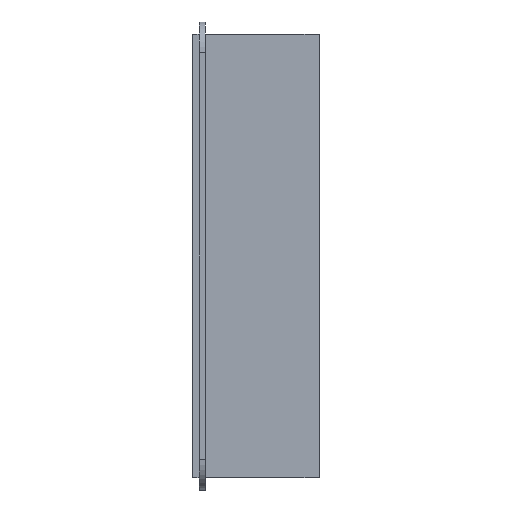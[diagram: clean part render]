
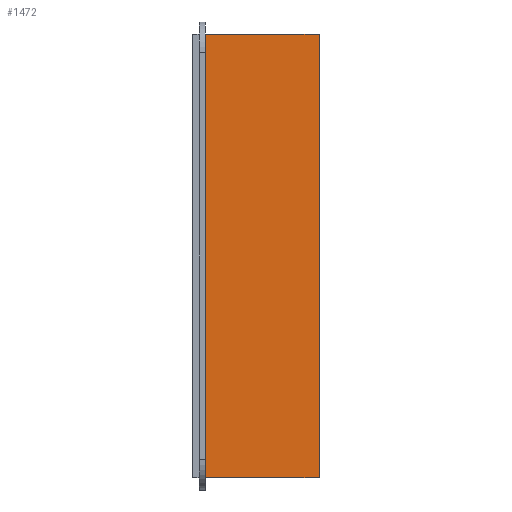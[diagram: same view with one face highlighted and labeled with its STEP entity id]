
A CAD part, front view. The second image highlights one B-rep face of the part: STEP entity #1472.
In plain terms, the highlighted planar face has unit normal (0, -1, 0).
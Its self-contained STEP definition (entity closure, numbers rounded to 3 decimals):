
#675=CARTESIAN_POINT('',(-8.25,-85.,36.));
#676=VERTEX_POINT('',#675);
#683=CARTESIAN_POINT('',(10.25,-85.,36.));
#684=VERTEX_POINT('',#683);
#685=CARTESIAN_POINT('',(-8.25,-85.,36.));
#686=DIRECTION('',(1.0,0.0,0.0));
#687=VECTOR('',#686,18.5);
#688=LINE('',#685,#687);
#689=EDGE_CURVE('',#676,#684,#688,.T.);
#1442=CARTESIAN_POINT('',(0.,-85.,0.));
#1443=DIRECTION('',(0.0,1.0,0.0));
#1444=DIRECTION('',(-1.0,0.0,0.0));
#1445=AXIS2_PLACEMENT_3D('',#1442,#1443,#1444);
#1446=PLANE('',#1445);
#1447=CARTESIAN_POINT('',(-8.25,-85.,-36.));
#1448=VERTEX_POINT('',#1447);
#1449=CARTESIAN_POINT('',(-8.25,-85.,-36.));
#1450=DIRECTION('',(0.0,0.0,1.0));
#1451=VECTOR('',#1450,72.0);
#1452=LINE('',#1449,#1451);
#1453=EDGE_CURVE('',#1448,#676,#1452,.T.);
#1454=ORIENTED_EDGE('',*,*,#1453,.F.);
#1455=CARTESIAN_POINT('',(10.25,-85.,-36.));
#1456=VERTEX_POINT('',#1455);
#1457=CARTESIAN_POINT('',(-8.25,-85.,-36.));
#1458=DIRECTION('',(1.0,0.0,0.0));
#1459=VECTOR('',#1458,18.5);
#1460=LINE('',#1457,#1459);
#1461=EDGE_CURVE('',#1448,#1456,#1460,.T.);
#1462=ORIENTED_EDGE('',*,*,#1461,.T.);
#1463=CARTESIAN_POINT('',(10.25,-85.,36.));
#1464=DIRECTION('',(0.0,0.0,-1.0));
#1465=VECTOR('',#1464,72.0);
#1466=LINE('',#1463,#1465);
#1467=EDGE_CURVE('',#684,#1456,#1466,.T.);
#1468=ORIENTED_EDGE('',*,*,#1467,.F.);
#1469=ORIENTED_EDGE('',*,*,#689,.F.);
#1470=EDGE_LOOP('',(#1454,#1462,#1468,#1469));
#1471=FACE_OUTER_BOUND('',#1470,.T.);
#1472=ADVANCED_FACE('',(#1471),#1446,.F.);
